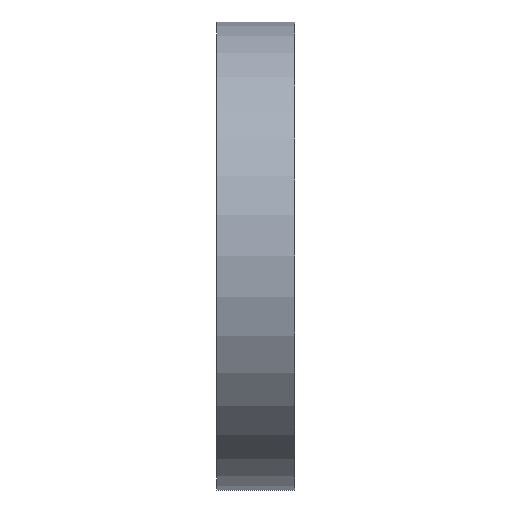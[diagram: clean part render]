
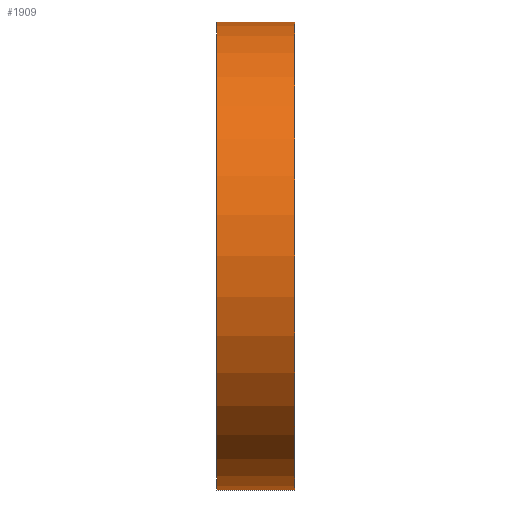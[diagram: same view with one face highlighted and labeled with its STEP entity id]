
A CAD part, left-side view. The second image highlights one B-rep face of the part: STEP entity #1909.
In plain terms, the highlighted cylindrical face has radius 76.2 mm (diameter 152.4 mm), a full revolution.
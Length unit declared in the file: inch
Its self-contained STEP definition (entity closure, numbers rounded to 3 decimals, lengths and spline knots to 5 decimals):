
#257=FACE_OUTER_BOUND('',#349,.T.);
#349=EDGE_LOOP('',(#1576,#1577,#1578,#1579));
#529=LINE('',#3236,#673);
#673=VECTOR('',#2696,3.);
#790=CIRCLE('',#2139,3.);
#791=CIRCLE('',#2140,3.);
#966=VERTEX_POINT('',#3233);
#967=VERTEX_POINT('',#3235);
#1227=EDGE_CURVE('',#966,#966,#790,.T.);
#1228=EDGE_CURVE('',#966,#967,#529,.T.);
#1229=EDGE_CURVE('',#967,#967,#791,.T.);
#1576=ORIENTED_EDGE('',*,*,#1227,.F.);
#1577=ORIENTED_EDGE('',*,*,#1228,.T.);
#1578=ORIENTED_EDGE('',*,*,#1229,.T.);
#1579=ORIENTED_EDGE('',*,*,#1228,.F.);
#1821=CYLINDRICAL_SURFACE('',#2138,3.);
#1909=ADVANCED_FACE('',(#257),#1821,.T.);
#2138=AXIS2_PLACEMENT_3D('',#3232,#2692,#2693);
#2139=AXIS2_PLACEMENT_3D('',#3234,#2694,#2695);
#2140=AXIS2_PLACEMENT_3D('',#3237,#2697,#2698);
#2692=DIRECTION('center_axis',(0.,1.,0.));
#2693=DIRECTION('ref_axis',(-1.,0.,0.));
#2694=DIRECTION('center_axis',(0.,1.,0.));
#2695=DIRECTION('ref_axis',(-1.,0.,0.));
#2696=DIRECTION('',(0.,-1.,0.));
#2697=DIRECTION('center_axis',(0.,1.,0.));
#2698=DIRECTION('ref_axis',(-1.,0.,0.));
#3232=CARTESIAN_POINT('Origin',(0.,0.,0.));
#3233=CARTESIAN_POINT('',(3.,1.,0.));
#3234=CARTESIAN_POINT('Origin',(0.,1.,0.));
#3235=CARTESIAN_POINT('',(3.,0.,0.));
#3236=CARTESIAN_POINT('',(3.,0.,0.));
#3237=CARTESIAN_POINT('Origin',(0.,0.,0.));
